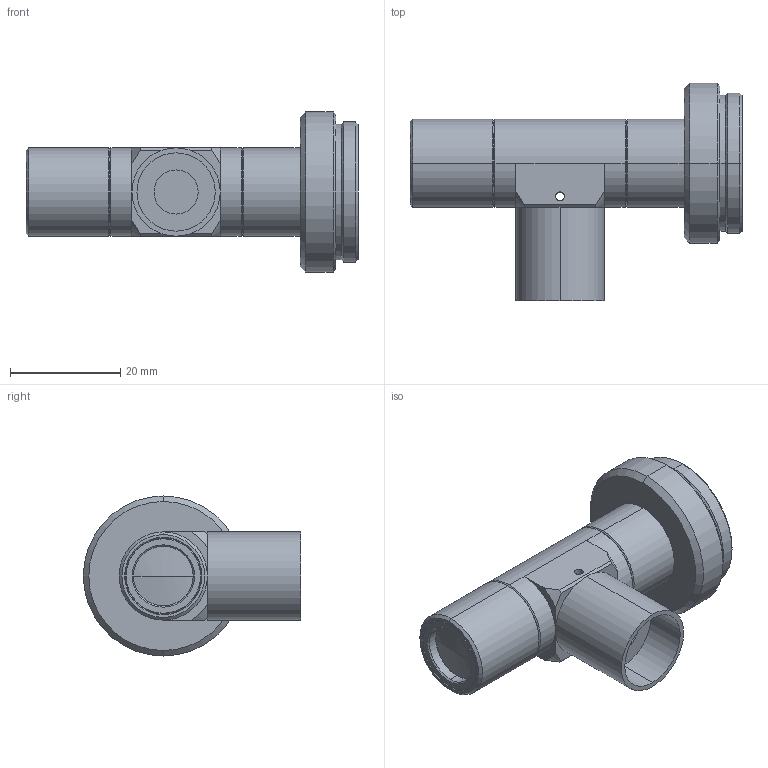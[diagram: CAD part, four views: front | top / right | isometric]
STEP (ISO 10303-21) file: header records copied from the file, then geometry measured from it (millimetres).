
FILE_DESCRIPTION (( 'STEP AP203' ), '1' );
FILE_NAME ('APT1.5-65C.STEP', '2017-04-07T06:51:19', ( 'miura_vst' ), ( '' ), 'SwSTEP 2.0', 'SolidWorks 2017', '' );
FILE_SCHEMA (( 'CONFIG_CONTROL_DESIGN' ));
Length unit declared in the file: millimetre
Products named in the file (1): APT1.5-65C
Bounding box: 60.17 x 39.4 x 29 mm (x, y, z)
Volume: 15924.4 mm3; surface area: 7925.4 mm2
Topology: 4 solids, 4 shells, 115 faces, 240 edges, 144 vertices
Faces by surface type: cone 48, cylinder 39, plane 24, sphere 4
Entity records: 3205 total; most frequent: DIRECTION 592, CARTESIAN_POINT 584, ORIENTED_EDGE 480, AXIS2_PLACEMENT_3D 248, EDGE_CURVE 240, VERTEX_POINT 144, CIRCLE 132, EDGE_LOOP 132
